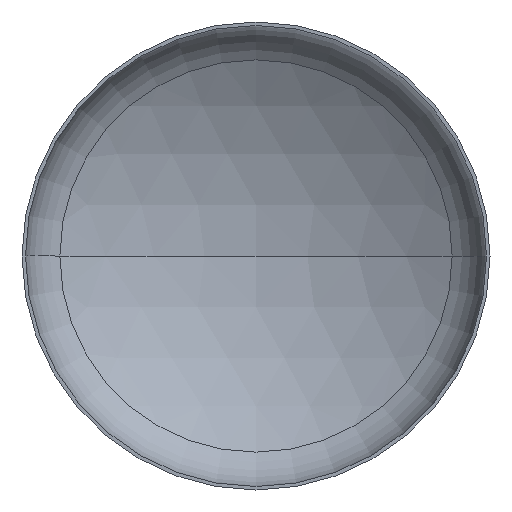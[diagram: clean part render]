
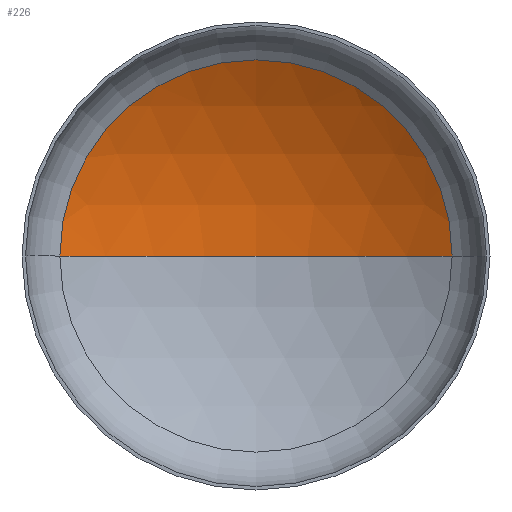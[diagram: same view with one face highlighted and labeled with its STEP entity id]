
A CAD part, front view. The second image highlights one B-rep face of the part: STEP entity #226.
In plain terms, the highlighted spherical face has radius 1920 mm.
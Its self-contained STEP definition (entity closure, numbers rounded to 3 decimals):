
#4 = AXIS2_PLACEMENT_3D ( 'NONE', #232, #388, #112 ) ;
#8 = EDGE_LOOP ( 'NONE', ( #247, #146, #114 ) ) ;
#12 = DIRECTION ( 'NONE',  ( 0., -1., 0. ) ) ;
#13 = AXIS2_PLACEMENT_3D ( 'NONE', #255, #396, #260 ) ;
#24 = AXIS2_PLACEMENT_3D ( 'NONE', #267, #286, #248 ) ;
#40 = VERTEX_POINT ( 'NONE', #296 ) ;
#42 = AXIS2_PLACEMENT_3D ( 'NONE', #320, #12, #91 ) ;
#44 = CIRCLE ( 'NONE', #13, 1920. ) ;
#91 = DIRECTION ( 'NONE',  ( 1., 0., 0. ) ) ;
#102 = EDGE_CURVE ( 'NONE', #118, #358, #395, .T. ) ;
#112 = DIRECTION ( 'NONE',  ( 1., 0., 0. ) ) ;
#114 = ORIENTED_EDGE ( 'NONE', *, *, #102, .T. ) ;
#118 = VERTEX_POINT ( 'NONE', #407 ) ;
#146 = ORIENTED_EDGE ( 'NONE', *, *, #351, .T. ) ;
#206 = SPHERICAL_SURFACE ( 'NONE', #24, 1920. ) ;
#226 = ADVANCED_FACE ( 'NONE', ( #321 ), #206, .F. ) ;
#232 = CARTESIAN_POINT ( 'NONE',  ( 0., -1265.286, 0. ) ) ;
#241 = CIRCLE ( 'NONE', #4, 1920. ) ;
#247 = ORIENTED_EDGE ( 'NONE', *, *, #354, .F. ) ;
#248 = DIRECTION ( 'NONE',  ( -1., 0., 0. ) ) ;
#255 = CARTESIAN_POINT ( 'NONE',  ( 0., -1265.286, 0. ) ) ;
#259 = CARTESIAN_POINT ( 'NONE',  ( -1005.832, 370.165, 0. ) ) ;
#260 = DIRECTION ( 'NONE',  ( -1., 0., 0. ) ) ;
#267 = CARTESIAN_POINT ( 'NONE',  ( 0., -1265.286, 0. ) ) ;
#286 = DIRECTION ( 'NONE',  ( 0., 0., -1. ) ) ;
#296 = CARTESIAN_POINT ( 'NONE',  ( 0., 654.714, 0. ) ) ;
#320 = CARTESIAN_POINT ( 'NONE',  ( 0., 370.165, 0. ) ) ;
#321 = FACE_OUTER_BOUND ( 'NONE', #8, .T. ) ;
#351 = EDGE_CURVE ( 'NONE', #40, #118, #44, .T. ) ;
#354 = EDGE_CURVE ( 'NONE', #40, #358, #241, .T. ) ;
#358 = VERTEX_POINT ( 'NONE', #259 ) ;
#388 = DIRECTION ( 'NONE',  ( 0., 0., 1. ) ) ;
#395 = CIRCLE ( 'NONE', #42, 1005.832 ) ;
#396 = DIRECTION ( 'NONE',  ( 0., 0., -1. ) ) ;
#407 = CARTESIAN_POINT ( 'NONE',  ( 1005.832, 370.165, 0. ) ) ;
